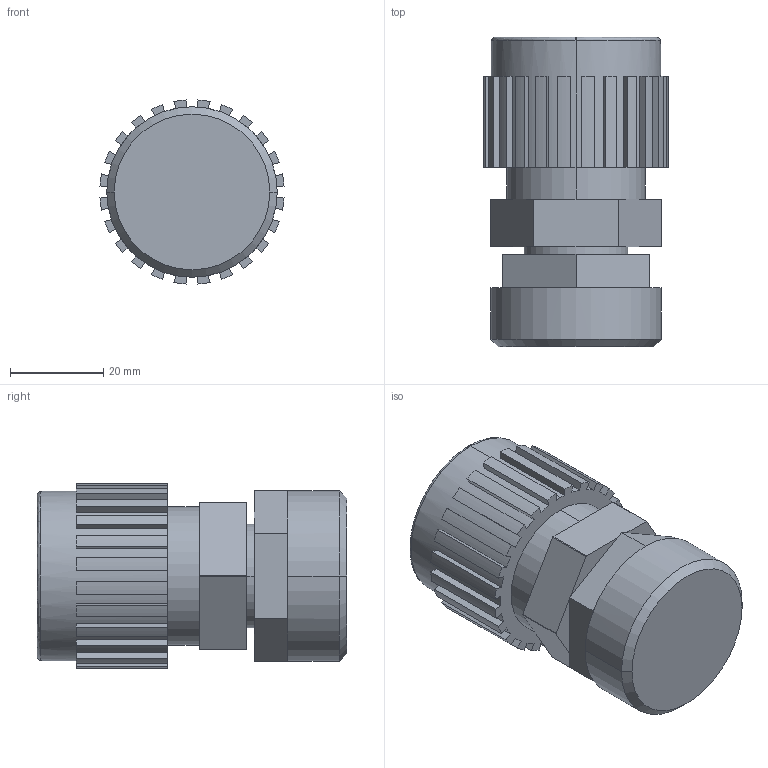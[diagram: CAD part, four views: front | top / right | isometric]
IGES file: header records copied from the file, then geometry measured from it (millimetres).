
Start section: SolidWorks IGES file using analytic representation for surfaces
Global section: file name: S:\Product Visuals\REVISED-30L-TOP-MOUNT-FITTINGS\IGS\top-straight-outlet-only\pillar-s-300\12-pillar-s-300-with-top-mount-adapter.IGS; native system: SolidWorks 2012; preprocessor: SolidWorks 2012; author: rachel.dressel; date: 121127.160954; units: inch
Bounding box: 39.54 x 66.42 x 39.54 mm (x, y, z)
Volume: 62210.7 mm3; surface area: 13328.6 mm2
Topology: 1 solids, 1 shells, 149 faces, 408 edges, 266 vertices
Faces by surface type: plane 103, revolution 42, bspline 4
